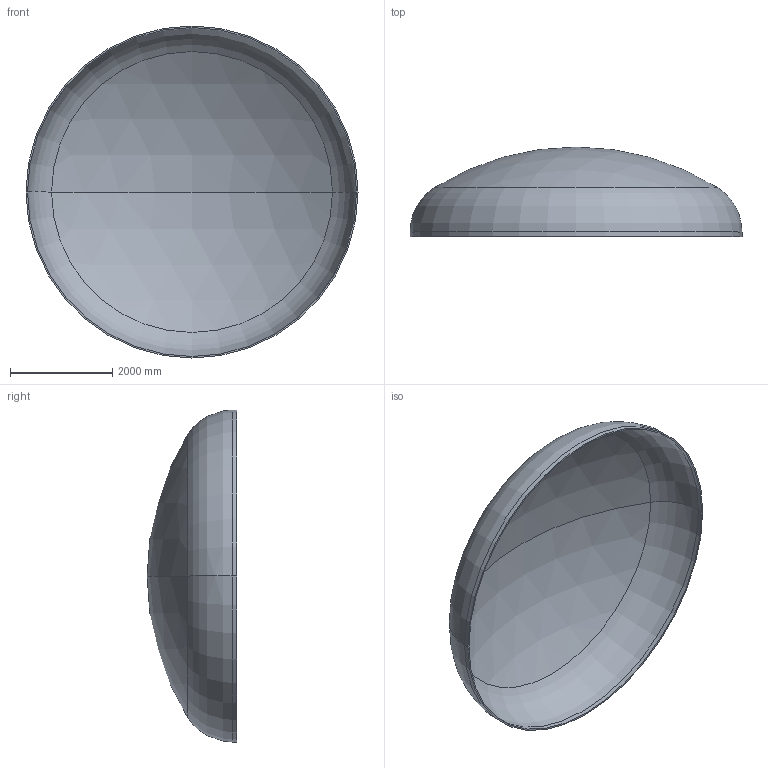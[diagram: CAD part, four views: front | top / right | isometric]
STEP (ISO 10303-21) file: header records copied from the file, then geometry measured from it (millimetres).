
FILE_DESCRIPTION (( 'STEP AP203' ), '1' );
FILE_NAME ('DIN 28013 Korbbogenform_-_Boden DIN 28013 - 6500 x 90 - I - s=29.step', '2016-07-04T10:41:02', ( '' ), ( '' ), 'SwSTEP 2.0', 'SolidWorks 2013', '' );
FILE_SCHEMA (( 'CONFIG_CONTROL_DESIGN' ));
Length unit declared in the file: millimetre
Products named in the file (1): DIN 28013 Korbbogenform_-_Boden DIN 28013 - 6500 x 90 - I - s=29
Bounding box: 6500 x 1754.29 x 6500 mm (x, y, z)
Volume: 1377805646.1 mm3; surface area: 95612350.6 mm2
Topology: 1 solids, 1 shells, 13 faces, 24 edges, 14 vertices
Faces by surface type: torus 4, cylinder 4, sphere 4, plane 1
Entity records: 407 total; most frequent: DIRECTION 72, CARTESIAN_POINT 52, ORIENTED_EDGE 48, AXIS2_PLACEMENT_3D 34, EDGE_CURVE 24, CIRCLE 20, EDGE_LOOP 14, VERTEX_POINT 14
